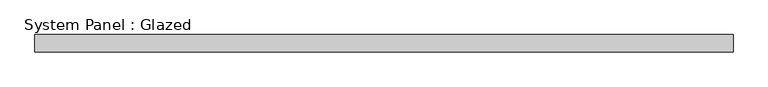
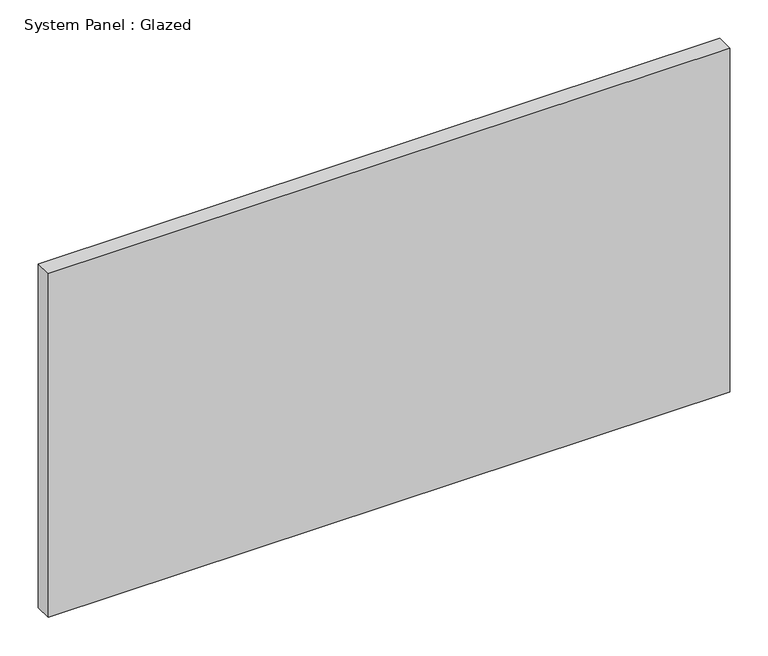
"""IFC4 building model written with IfcOpenShell, lengths in millimetres: plate geometry, System Panel : Glazed."""

from ifc_helpers import new_model, si_unit, origin, origin_with_axes, place, context, project, spatial, polyline, outline, extrude, source, transform, mapped, element, save


def system_panel_glazed_7b94d85b(model_context):
    return source(origin(), model_context, "Body", "SweptSolid", [
        extrude(outline(polyline([(511.4925, -44.45), (-511.4925, -44.45), (-511.4925, -19.05), (511.4925, -19.05), (511.4925, -44.45)])), origin_with_axes(), (0.0, 0.0, 1.0), 546.1),
    ])


if __name__ == "__main__":
    model = new_model("IFC4")
    model_context = context("Model", 3, world=origin())
    ifc_project = project(units=[si_unit("LENGTHUNIT", "METRE", prefix="MILLI")], contexts=[model_context])
    site = spatial("IfcSite", under=ifc_project)
    building = spatial("IfcBuilding", under=site)
    placement = place(None, origin())
    system_panel_glazed_shape = system_panel_glazed_7b94d85b(model_context)
    element("IfcPlate", 1, ObjectType="System Panel : Glazed", at=placement, inside=building, context=model_context, shape_type="MappedRepresentation", body=[
        mapped(system_panel_glazed_shape, transform((0.0, 0.0, 0.0), x_axis=(1.0, 0.0, 0.0), y_axis=(0.0, 1.0, 0.0), z_axis=(0.0, 0.0, 1.0))),
    ])
    save(model, "model.ifc")
